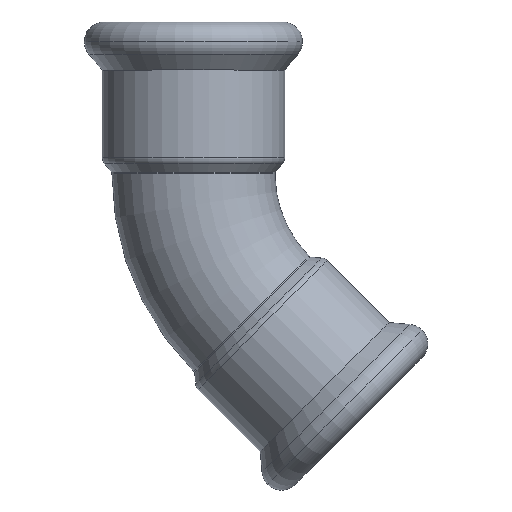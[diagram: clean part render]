
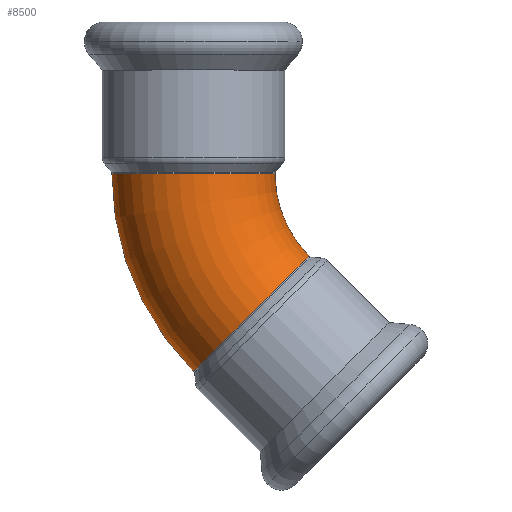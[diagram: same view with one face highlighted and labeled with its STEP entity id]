
A CAD part, top view. The second image highlights one B-rep face of the part: STEP entity #8500.
In plain terms, the highlighted toroidal (fillet/blend) face has major radius 34 mm and minor radius 14 mm.
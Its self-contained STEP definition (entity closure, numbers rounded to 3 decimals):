
#3920=CARTESIAN_POINT('',(-404.306,41.656,0.));
#3930=DIRECTION('',(0.,-1.,0.));
#3940=DIRECTION('',(-1.,0.,0.));
#3950=AXIS2_PLACEMENT_3D('',#3920,#3930,#3940);
#3960=CIRCLE('',#3950,14.);
#3970=CARTESIAN_POINT('',(-404.306,41.656,14.));
#3980=VERTEX_POINT('',#3970);
#3990=CARTESIAN_POINT('',(-418.306,41.656,0.));
#4000=VERTEX_POINT('',#3990);
#4010=EDGE_CURVE('',#3980,#4000,#3960,.T.);
#4150=CARTESIAN_POINT('',(-390.306,41.656,
0.));
#4160=VERTEX_POINT('',#4150);
#4190=EDGE_CURVE('',#4160,#3980,#3960,.T.);
#4500=CARTESIAN_POINT('',(-384.448,27.514,
0.));
#4510=VERTEX_POINT('',#4500);
#4690=CARTESIAN_POINT('',(-404.247,7.715,0.));
#4700=VERTEX_POINT('',#4690);
#4730=CARTESIAN_POINT('',(-394.348,17.615,0.));
#4740=DIRECTION('',(0.707,-0.707,0.));
#4750=DIRECTION('',(-0.707,-0.707,0.));
#4760=AXIS2_PLACEMENT_3D('',#4730,#4740,#4750);
#4770=CIRCLE('',#4760,14.);
#4780=EDGE_CURVE('',#4510,#4700,#4770,.T.);
#8260=CARTESIAN_POINT('',(-370.306,41.656,0.));
#8270=DIRECTION('',(0.,0.,1.));
#8280=DIRECTION('',(-1.,0.,0.));
#8290=AXIS2_PLACEMENT_3D('',#8260,#8270,#8280);
#8300=TOROIDAL_SURFACE('',#8290,34.,14.);
#8310=CARTESIAN_POINT('',(-370.306,41.656,
0.));
#8320=DIRECTION('',(0.,0.,1.));
#8330=DIRECTION('',(-1.,0.,0.));
#8340=AXIS2_PLACEMENT_3D('',#8310,#8320,#8330);
#8350=CIRCLE('',#8340,48.);
#8360=EDGE_CURVE('',#4000,#4700,#8350,.T.);
#8370=ORIENTED_EDGE('',*,*,#8360,.T.);
#8380=ORIENTED_EDGE('',*,*,#4010,.T.);
#8390=ORIENTED_EDGE('',*,*,#4190,.T.);
#8400=CARTESIAN_POINT('',(-370.306,41.656,
0.));
#8410=DIRECTION('',(0.,0.,1.));
#8420=DIRECTION('',(-1.,0.,0.));
#8430=AXIS2_PLACEMENT_3D('',#8400,#8410,#8420);
#8440=CIRCLE('',#8430,20.);
#8450=EDGE_CURVE('',#4160,#4510,#8440,.T.);
#8460=ORIENTED_EDGE('',*,*,#8450,.F.);
#8470=ORIENTED_EDGE('',*,*,#4780,.F.);
#8480=EDGE_LOOP('',(#8470,#8460,#8390,#8380,#8370));
#8490=FACE_OUTER_BOUND('',#8480,.T.);
#8500=ADVANCED_FACE('',(#8490),#8300,.T.);
